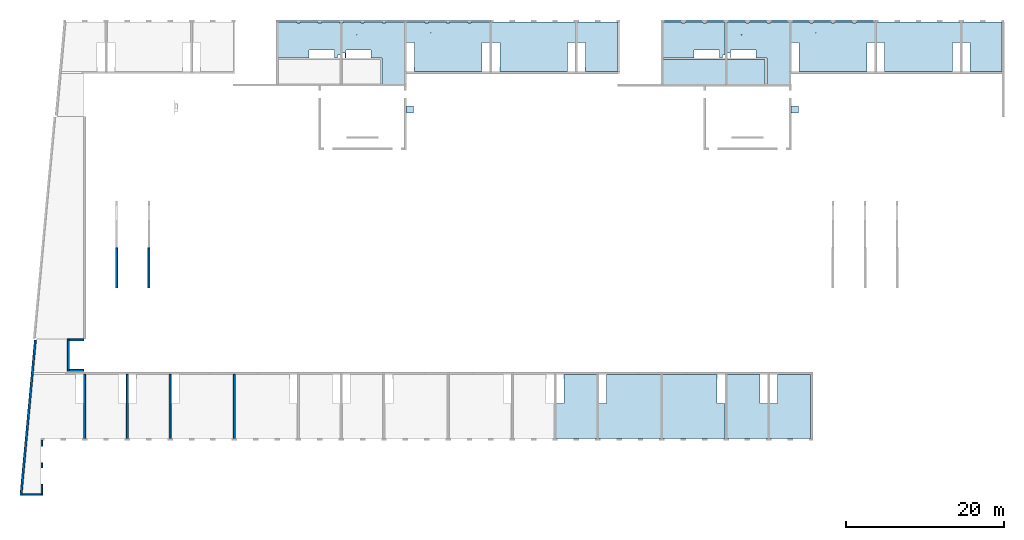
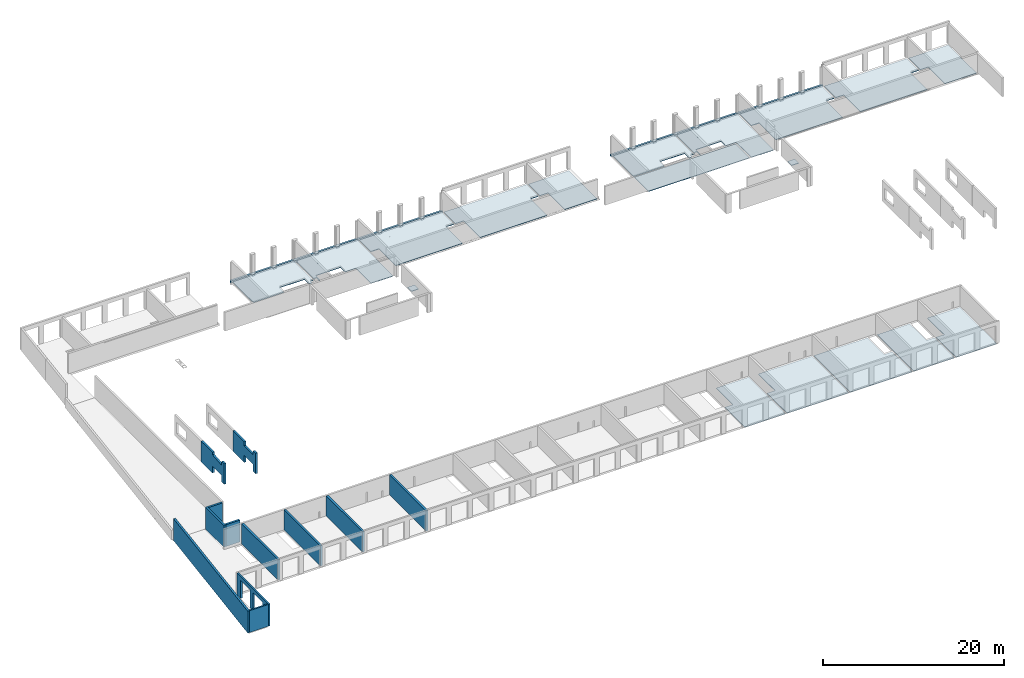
# One storey, part 3 of 12: 20 slabs, 12 walls, 17 openings.
"""IFC2X3 building model written with IfcOpenShell, lengths in millimetres."""

from ifc_helpers import new_model, entity, si_unit, converted_unit, derived_unit, direction, frame, frame_2d, origin, origin_2d_with_axis, place, context, subcontext, project, spatial, polyline, rectangle, circle, outline, extrude, material, layer, layer_set, layer_usage, type_object, element, save


model = new_model("IFC2X3")

# Units and contexts
model_context = context("Model", 3, precision=0.01, world=origin(), true_north=direction((6.12303176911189e-17, 1.0)))
body_context = subcontext(model_context, "Body", "Model", "MODEL_VIEW")
ifc_project = project(units=[si_unit("LENGTHUNIT", "METRE", prefix="MILLI"), si_unit("AREAUNIT", "SQUARE_METRE"), si_unit("VOLUMEUNIT", "CUBIC_METRE"), converted_unit("PLANEANGLEUNIT", "DEGREE", entity("IfcRatioMeasure", 0.0174532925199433), si_unit("PLANEANGLEUNIT", "RADIAN"), dimensions=[0, 0, 0, 0, 0, 0, 0]), si_unit("MASSUNIT", "GRAM", prefix="KILO"), derived_unit("MASSDENSITYUNIT", [(si_unit("MASSUNIT", "GRAM", prefix="KILO"), 1), (si_unit("LENGTHUNIT", "METRE"), -3)]), si_unit("TIMEUNIT", "SECOND"), si_unit("FREQUENCYUNIT", "HERTZ"), si_unit("THERMODYNAMICTEMPERATUREUNIT", "DEGREE_CELSIUS"), derived_unit("THERMALTRANSMITTANCEUNIT", [(si_unit("MASSUNIT", "GRAM", prefix="KILO"), 1), (si_unit("THERMODYNAMICTEMPERATUREUNIT", "KELVIN"), -1), (si_unit("TIMEUNIT", "SECOND"), -3)]), derived_unit("VOLUMETRICFLOWRATEUNIT", [(si_unit("LENGTHUNIT", "METRE"), 3), (si_unit("TIMEUNIT", "SECOND"), -1)]), si_unit("ELECTRICCURRENTUNIT", "AMPERE"), si_unit("ELECTRICVOLTAGEUNIT", "VOLT"), si_unit("POWERUNIT", "WATT"), si_unit("FORCEUNIT", "NEWTON", prefix="KILO"), si_unit("ILLUMINANCEUNIT", "LUX"), si_unit("LUMINOUSFLUXUNIT", "LUMEN"), si_unit("LUMINOUSINTENSITYUNIT", "CANDELA"), derived_unit("USERDEFINED", [(si_unit("MASSUNIT", "GRAM", prefix="KILO"), -1), (si_unit("LENGTHUNIT", "METRE"), -2), (si_unit("TIMEUNIT", "SECOND"), 3), (si_unit("LUMINOUSFLUXUNIT", "LUMEN"), 1)]), derived_unit("LINEARVELOCITYUNIT", [(si_unit("LENGTHUNIT", "METRE"), 1), (si_unit("TIMEUNIT", "SECOND"), -1)]), si_unit("PRESSUREUNIT", "PASCAL"), derived_unit("USERDEFINED", [(si_unit("LENGTHUNIT", "METRE"), -2), (si_unit("MASSUNIT", "GRAM", prefix="KILO"), 1), (si_unit("TIMEUNIT", "SECOND"), -2)])], contexts=[model_context])

# Site, building, storey
site_placement = place(None, origin())
site = spatial("IfcSite", under=ifc_project, at=site_placement, Name="Default", CompositionType="ELEMENT")
building_placement = place(site_placement, origin())
building = spatial("IfcBuilding", under=site, at=building_placement, Name="niet gebruiken", CompositionType="ELEMENT")
storey_placement = place(building_placement, frame((0.0, 0.0, 6660.0)))
storey = spatial("IfcBuildingStorey", under=building, at=storey_placement, Name="02 tweede verdieping", CompositionType="ELEMENT", Elevation=6660.00000000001)

# Slabs
ifc_material_1 = material(Name="NLRS_f2_beton ihwg")
ifc_layer_1 = layer(ifc_material_1, 250.0)
ifc_layer_set_1 = layer_set([ifc_layer_1], Name="Floor:NLRS_23.21_FL_breedplaat d=70/250_schil apart_gen")
ifc_layer_usage_1 = layer_usage(ifc_layer_set_1, "AXIS3", "POSITIVE", 0.0)
slab_1_placement = place(storey_placement, origin())
element("IfcSlab", 1, at=slab_1_placement, inside=storey, material=ifc_layer_usage_1, Name="Floor:NLRS_23.21_FL_breedplaat d=70/250_schil apart_gen", ObjectType="Floor:NLRS_23.21_FL_breedplaat d=70/250_schil apart_gen", PredefinedType="FLOOR", context=body_context, shape_type="SweptSolid", body=[
    extrude(outline(polyline([(57.2222222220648, -13293.3333333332), (307.222222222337, -13293.3333333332), (307.222222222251, 13786.6666666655), (57.2222222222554, 13786.6666666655), (57.2222222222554, 11311.6666666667), (-102.777777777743, 11311.6666666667), (-102.777777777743, 10901.6666666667), (57.2222222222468, 10901.6666666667), (57.2222222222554, 8611.66666666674), (-102.777777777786, 8611.66666666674), (-102.777777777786, 8201.66666666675), (57.2222222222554, 8201.66666666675), (57.2222222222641, 5911.66666666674), (-102.777777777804, 5911.66666666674), (-102.777777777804, 5501.66666666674), (57.2222222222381, 5501.66666666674), (57.2222222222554, 511.666666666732), (-102.777777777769, 511.666666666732), (-102.777777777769, 101.666666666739), (57.2222222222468, 101.666666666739), (57.2222222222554, -2188.33333333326), (-102.777777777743, -2188.33333333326), (-102.777777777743, -2598.33333333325), (57.2222222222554, -2598.33333333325), (57.2222222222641, -4888.33333333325), (-102.77777777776, -4888.33333333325), (-102.77777777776, -5298.33333333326), (57.2222222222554, -5298.33333333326), (57.2222222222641, -7588.33333333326), (-102.777777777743, -7588.33333333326), (-102.777777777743, -7998.33333333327), (57.2222222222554, -7998.33333333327), (57.2222222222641, -10288.3333333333), (-102.777777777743, -10288.3333333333), (-102.777777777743, -10698.3333333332), (57.2222222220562, -10698.3333333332), (57.2222222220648, -13293.3333333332)])), frame((45593.3333333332, 52948.7777777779, -90.0), z_axis=(0.0, 0.0, -1.0), x_axis=(0.0, 1.0, 0.0)), (0.0, 0.0, 1.0), 250.000000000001),
])
ifc_layer_usage_2 = layer_usage(ifc_layer_set_1, "AXIS3", "POSITIVE", 0.0)
slab_2_placement = place(storey_placement, frame((80900.0, 52846.0, -340.0)))
element("IfcSlab", 2, at=slab_2_placement, inside=storey, material=ifc_layer_usage_2, Name="Floor:NLRS_23.21_FL_breedplaat d=70/250_schil apart_gen", ObjectType="Floor:NLRS_23.21_FL_breedplaat d=70/250_schil apart_gen", PredefinedType="FLOOR", context=body_context, shape_type="SweptSolid", body=[
    extrude(outline(polyline([(13540.0, 205.0), (-13540.0, 205.0), (-13540.0, -45.0), (-11065.0, -45.0), (-11065.0, -205.0), (-10655.0, -205.0), (-10655.0, -45.0), (-8365.0, -45.0), (-8365.0, -205.0), (-7955.0, -205.0), (-7955.0, -45.0), (-5665.0, -45.0), (-5665.0, -205.0), (-5255.0, -205.0), (-5255.0, -45.0), (-265.0, -45.0), (-265.0, -205.0), (145.0, -205.0), (145.0, -45.0), (2435.0, -45.0), (2435.0, -205.0), (2845.0, -205.0), (2845.0, -45.0), (5135.0, -45.0), (5135.0, -205.0), (5545.0, -205.0), (5545.0, -45.0), (7835.0, -45.0), (7835.0, -205.0), (8245.0, -205.0), (8245.0, -45.0), (10535.0, -45.0), (10535.0, -205.0), (10945.0, -205.0), (10945.0, -45.0), (13540.0, -45.0), (13540.0, 205.0)])), frame((13540.0, 205.0, 250.0), z_axis=(0.0, 0.0, -1.0), x_axis=(-1.0, 0.0, 0.0)), (0.0, 0.0, 1.0), 250.000000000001),
])
ifc_material_2 = material(Name="NLRS_f2_beton prefab")
ifc_layer_2 = layer(ifc_material_2, 70.0)
ifc_layer_set_2 = layer_set([ifc_layer_2], Name="Floor:NLRS_23.21_FL_breedplaatschil d=70_gen")
ifc_layer_usage_3 = layer_usage(ifc_layer_set_2, "AXIS3", "POSITIVE", 0.0)
slab_3_placement = place(storey_placement, origin())
element("IfcSlab", 3, at=slab_3_placement, inside=storey, material=ifc_layer_usage_3, Name="Floor:NLRS_23.21_FL_breedplaatschil d=70_gen", ObjectType="Floor:NLRS_23.21_FL_breedplaatschil d=70_gen", PredefinedType="FLOOR", context=body_context, shape_type="SweptSolid", body=[
    extrude(outline(polyline([(-4164.0, -2070.0), (232.0, -2070.0), (232.0, -1050.0), (3932.0, -1050.0), (3932.0, 3120.0), (-4164.0, 3120.0), (-4164.0, -2070.0)])), frame((96675.0, 4584.0, -270.0), z_axis=(0.0, 0.0, -1.0), x_axis=(0.0, 1.0, 0.0)), (0.0, 0.0, 1.0), 70.0000000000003),
])
ifc_layer_usage_4 = layer_usage(ifc_layer_set_2, "AXIS3", "POSITIVE", 0.0)
slab_4_placement = place(storey_placement, origin())
element("IfcSlab", 4, at=slab_4_placement, inside=storey, material=ifc_layer_usage_4, Name="Floor:NLRS_23.21_FL_breedplaatschil d=70_gen", ObjectType="Floor:NLRS_23.21_FL_breedplaatschil d=70_gen", PredefinedType="FLOOR", context=body_context, shape_type="SweptSolid", body=[
    extrude(outline(polyline([(-4164.0, -2070.0), (232.0, -2070.0), (232.0, -1050.0), (3932.0, -1050.0), (3932.0, 3120.0), (-4164.0, 3120.0), (-4164.0, -2070.0)])), frame((69675.0, 4584.0, -270.0), z_axis=(0.0, 0.0, -1.0), x_axis=(0.0, 1.0, 0.0)), (0.0, 0.0, 1.0), 70.0000000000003),
])
ifc_layer_usage_5 = layer_usage(ifc_layer_set_2, "AXIS3", "POSITIVE", 0.0)
slab_5_placement = place(storey_placement, origin())
element("IfcSlab", 5, at=slab_5_placement, inside=storey, material=ifc_layer_usage_5, Name="Floor:NLRS_23.21_FL_breedplaatschil d=70_gen", ObjectType="Floor:NLRS_23.21_FL_breedplaatschil d=70_gen", PredefinedType="FLOOR", context=body_context, shape_type="SweptSolid", body=[
    extrude(outline(polyline([(-4164.0, -3120.0), (3932.0, -3120.0), (3932.0, 1050.0), (232.0, 1050.0), (232.0, 2070.0), (-4164.0, 2070.0), (-4164.0, -3120.0)])), frame((92325.0, 4584.0, -270.0), z_axis=(0.0, 0.0, -1.0), x_axis=(0.0, 1.0, 0.0)), (0.0, 0.0, 1.0), 70.0000000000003),
])
ifc_layer_usage_6 = layer_usage(ifc_layer_set_2, "AXIS3", "POSITIVE", 0.0)
slab_6_placement = place(storey_placement, origin())
element("IfcSlab", 6, at=slab_6_placement, inside=storey, material=ifc_layer_usage_6, Name="Floor:NLRS_23.21_FL_breedplaatschil d=70_gen", ObjectType="Floor:NLRS_23.21_FL_breedplaatschil d=70_gen", PredefinedType="FLOOR", context=body_context, shape_type="SweptSolid", body=[
    extrude(outline(polyline([(-4164.0, -2970.0), (232.0, -2970.0), (232.0, -1950.0), (3932.0, -1950.0), (3932.0, 4920.0), (-4164.0, 4920.0), (-4164.0, -2970.0)])), frame((75975.0, 4584.0, -270.0), z_axis=(0.0, 0.0, -1.0), x_axis=(0.0, 1.0, 0.0)), (0.0, 0.0, 1.0), 70.0000000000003),
])
ifc_layer_usage_7 = layer_usage(ifc_layer_set_2, "AXIS3", "POSITIVE", 0.0)
slab_7_placement = place(storey_placement, origin())
element("IfcSlab", 7, at=slab_7_placement, inside=storey, material=ifc_layer_usage_7, Name="Floor:NLRS_23.21_FL_breedplaatschil d=70_gen", ObjectType="Floor:NLRS_23.21_FL_breedplaatschil d=70_gen", PredefinedType="FLOOR", context=body_context, shape_type="SweptSolid", body=[
    extrude(outline(polyline([(-4164.0, -4920.0), (3932.0, -4920.0), (3932.0, 1950.0), (232.0, 1950.0), (232.0, 2970.0), (-4164.0, 2970.0), (-4164.0, -4920.0)])), frame((86025.0, 4584.0, -270.0), z_axis=(0.0, 0.0, -1.0), x_axis=(0.0, 1.0, 0.0)), (0.0, 0.0, 1.0), 70.0000000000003),
])
ifc_layer_usage_8 = layer_usage(ifc_layer_set_2, "AXIS3", "POSITIVE", 0.0)
slab_8_placement = place(storey_placement, origin())
element("IfcSlab", 8, at=slab_8_placement, inside=storey, material=ifc_layer_usage_8, Name="Floor:NLRS_23.21_FL_breedplaatschil d=70_gen", ObjectType="Floor:NLRS_23.21_FL_breedplaatschil d=70_gen", PredefinedType="FLOOR", context=body_context, shape_type="SweptSolid", body=[
    extrude(outline(polyline([(285.0, -5295.0), (2845.0, -5295.0), (2845.0, 5295.0), (285.0, 5295.0), (285.0, 4275.0), (-3415.0, 4275.0), (-3415.0, -4275.0), (285.0, -4275.0), (285.0, -5295.0)])), frame((64800.0, 50141.0, -270.0), z_axis=(0.0, 0.0, -1.0), x_axis=(0.0, 1.0, 0.0)), (0.0, 0.0, 1.0), 70.0000000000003),
])
ifc_layer_usage_9 = layer_usage(ifc_layer_set_2, "AXIS3", "POSITIVE", 0.0)
slab_9_placement = place(storey_placement, origin())
element("IfcSlab", 9, at=slab_9_placement, inside=storey, material=ifc_layer_usage_9, Name="Floor:NLRS_23.21_FL_breedplaatschil d=70_gen", ObjectType="Floor:NLRS_23.21_FL_breedplaatschil d=70_gen", PredefinedType="FLOOR", context=body_context, shape_type="SweptSolid", body=[
    extrude(outline(polyline([(380.0, -2061.66666666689), (2940.0, -2061.66666666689), (2940.0, 3103.33333333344), (-3320.0, 3103.33333333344), (-3320.0, -1041.66666666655), (380.0, -1041.66666666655), (380.0, -2061.66666666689)])), frame((72366.6666666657, 50046.0, -270.0), z_axis=(0.0, 0.0, -1.0), x_axis=(0.0, 1.0, 0.0)), (0.0, 0.0, 1.0), 70.0000000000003),
])

# Slab, opening
ifc_layer_usage_10 = layer_usage(ifc_layer_set_2, "AXIS3", "POSITIVE", 0.0)
slab_10_placement = place(storey_placement, frame((48705.0, 46726.0, -340.0)))
slab_10 = element("IfcSlab", 10, at=slab_10_placement, inside=storey, material=ifc_layer_usage_10, Name="Floor:NLRS_23.21_FL_breedplaatschil d=70_gen", ObjectType="Floor:NLRS_23.21_FL_breedplaatschil d=70_gen", PredefinedType="FLOOR", context=body_context, shape_type="SweptSolid", body=[
    extrude(outline(polyline([(2885.0, 3150.0), (2885.0, 2990.0), (2515.0, 2990.0), (2515.0, 3150.0), (185.0, 3150.0), (185.0, 2990.0), (-185.0, 2990.0), (-185.0, 3150.0), (-2515.0, 3150.0), (-2515.0, 2990.0), (-2885.0, 2990.0), (-2885.0, 3150.0), (-5295.0, 3150.0), (-5295.0, 550.0), (-4275.0, 550.0), (-4275.0, -3150.0), (4275.0, -3150.0), (4275.0, 550.0), (5295.0, 550.0), (5295.0, 3150.0), (2885.0, 3150.0)])), frame((5295.0, 3150.0, 70.0), z_axis=(0.0, 0.0, -1.0), x_axis=(-1.0, 0.0, 0.0)), (0.0, 0.0, 1.0), 70.0000000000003),
])
opening_1_placement = place(storey_placement, frame((48705.0, 46726.0, -340.0)))
element("IfcOpeningElement", 11, at=opening_1_placement, cuts=slab_10, ObjectType="Opening", context=body_context, shape_type="SweptSolid", body=[
    extrude(circle(Radius=37.5, at=frame_2d((2200.0, 1780.0), x_axis=(1.0, 0.0))), frame((5295.0, 3150.0, 70.0), z_axis=(0.0, 0.0, -1.0), x_axis=(-1.0, 0.0, 0.0)), (0.0, 0.0, 1.0), 70.0000000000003),
])

# Slab
ifc_layer_usage_11 = layer_usage(ifc_layer_set_2, "AXIS3", "POSITIVE", 0.0)
slab_11_placement = place(storey_placement, origin())
element("IfcSlab", 12, at=slab_11_placement, inside=storey, material=ifc_layer_usage_11, Name="Floor:NLRS_23.21_FL_breedplaatschil d=70_gen", ObjectType="Floor:NLRS_23.21_FL_breedplaatschil d=70_gen", PredefinedType="FLOOR", context=body_context, shape_type="SweptSolid", body=[
    extrude(outline(polyline([(-2833.0, -4987.4999999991), (1737.0, -4987.4999999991), (1737.0, -2602.50000000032), (1577.0, -2602.50000000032), (1577.0, -2232.50000000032), (1737.0, -2232.50000000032), (1737.0, 97.4999999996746), (1577.0, 97.4999999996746), (1577.0, 467.499999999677), (1737.0, 467.499999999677), (1737.0, 2797.49999999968), (1577.0, 2797.49999999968), (1577.0, 2877.49999999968), (-2463.0, 2877.49999999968), (-2463.0, 2507.50000000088), (-2833.0, 2507.50000000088), (-2833.0, 2137.49999999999), (-1813.0, 2137.49999999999), (-1813.0, -1062.50000000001), (-2833.0, -1062.50000000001), (-2833.0, -4987.4999999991)])), frame((86117.4999999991, 51289.0, -270.0), z_axis=(0.0, 0.0, -1.0), x_axis=(0.0, 1.0, 0.0)), (0.0, 0.0, 1.0), 70.0000000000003),
])

# Slab, openings
ifc_layer_usage_12 = layer_usage(ifc_layer_set_2, "AXIS3", "POSITIVE", 0.0)
slab_12_placement = place(storey_placement, frame((89205.0, 45156.0, -340.0)))
slab_12 = element("IfcSlab", 13, at=slab_12_placement, inside=storey, material=ifc_layer_usage_12, Name="Floor:NLRS_23.21_FL_breedplaatschil d=70_gen", ObjectType="Floor:NLRS_23.21_FL_breedplaatschil d=70_gen", PredefinedType="FLOOR", context=body_context, shape_type="SweptSolid", body=[
    extrude(outline(polyline([(-1535.0, 3935.0), (-3945.0, 3935.0), (-3945.0, -3955.0), (-1105.0, -3955.0), (-1105.0, -635.0), (275.0, -635.0), (275.0, 385.0), (3475.0, 385.0), (3475.0, -635.0), (3575.0, -635.0), (3575.0, -265.0), (3945.0, -265.0), (3945.0, 3775.0), (3865.0, 3775.0), (3865.0, 3935.0), (1535.0, 3935.0), (1535.0, 3775.0), (1165.0, 3775.0), (1165.0, 3935.0), (-1165.0, 3935.0), (-1165.0, 3775.0), (-1535.0, 3775.0), (-1535.0, 3935.0)])), frame((3945.0, 3935.0, 70.0), z_axis=(0.0, 0.0, -1.0), x_axis=(-1.0, 0.0, 0.0)), (0.0, 0.0, 1.0), 70.0000000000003),
])
opening_2_placement = place(storey_placement, frame((89205.0, 45156.0, -340.0)))
element("IfcOpeningElement", 14, at=opening_2_placement, cuts=slab_12, ObjectType="Opening", context=body_context, shape_type="SweptSolid", body=[
    extrude(circle(Radius=37.5, at=frame_2d((2100.0, 2315.0), x_axis=(1.0, 0.0))), frame((3945.0, 3935.0, 70.0), z_axis=(0.0, 0.0, -1.0), x_axis=(-1.0, 0.0, 0.0)), (0.0, 0.0, 1.0), 70.0000000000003),
])
opening_3_placement = place(slab_12_placement, origin())
element("IfcOpeningElement", 15, at=opening_3_placement, cuts=slab_12, ObjectType="Opening", context=body_context, shape_type="SweptSolid", body=[
    extrude(rectangle(XDim=607.000000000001, YDim=350.000000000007, at=origin_2d_with_axis()), frame((195.0, 3623.49999999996, 0.0), z_axis=(0.0, 0.0, 1.0), x_axis=(0.0, -1.0, 0.0)), (0.0, 0.0, 1.0), 249.999999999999),
])

# Slabs
ifc_layer_usage_13 = layer_usage(ifc_layer_set_2, "AXIS3", "POSITIVE", 0.0)
slab_13_placement = place(storey_placement, origin())
element("IfcSlab", 16, at=slab_13_placement, inside=storey, material=ifc_layer_usage_13, Name="Floor:NLRS_23.21_FL_breedplaatschil d=70_gen", ObjectType="Floor:NLRS_23.21_FL_breedplaatschil d=70_gen", PredefinedType="FLOOR", context=body_context, shape_type="SweptSolid", body=[
    extrude(outline(polyline([(285.0, -5295.0), (2845.0, -5295.0), (2845.0, 5295.0), (285.0, 5295.0), (285.0, 4275.0), (-3415.0, 4275.0), (-3415.0, -4275.0), (285.0, -4275.0), (285.0, -5295.0)])), frame((113400.0, 50141.0, -270.0), z_axis=(0.0, 0.0, -1.0), x_axis=(0.0, 1.0, 0.0)), (0.0, 0.0, 1.0), 70.0000000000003),
])
ifc_layer_usage_14 = layer_usage(ifc_layer_set_2, "AXIS3", "POSITIVE", 0.0)
slab_14_placement = place(storey_placement, origin())
element("IfcSlab", 17, at=slab_14_placement, inside=storey, material=ifc_layer_usage_14, Name="Floor:NLRS_23.21_FL_breedplaatschil d=70_gen", ObjectType="Floor:NLRS_23.21_FL_breedplaatschil d=70_gen", PredefinedType="FLOOR", context=body_context, shape_type="SweptSolid", body=[
    extrude(outline(polyline([(380.0, -2028.33333333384), (2940.0, -2028.33333333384), (2940.0, 3036.66666666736), (-3320.0, 3036.66666666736), (-3320.0, -1008.3333333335), (380.0, -1008.3333333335), (380.0, -2028.33333333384)])), frame((120933.333333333, 50046.0, -270.0), z_axis=(0.0, 0.0, -1.0), x_axis=(0.0, 1.0, 0.0)), (0.0, 0.0, 1.0), 70.0000000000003),
])

# Slab, opening
ifc_layer_usage_15 = layer_usage(ifc_layer_set_2, "AXIS3", "POSITIVE", 0.0)
slab_15_placement = place(storey_placement, frame((97305.0, 46726.0, -340.0)))
slab_15 = element("IfcSlab", 18, at=slab_15_placement, inside=storey, material=ifc_layer_usage_15, Name="Floor:NLRS_23.21_FL_breedplaatschil d=70_gen", ObjectType="Floor:NLRS_23.21_FL_breedplaatschil d=70_gen", PredefinedType="FLOOR", context=body_context, shape_type="SweptSolid", body=[
    extrude(outline(polyline([(2885.0, 3150.0), (2885.0, 2990.0), (2515.0, 2990.0), (2515.0, 3150.0), (185.0, 3150.0), (185.0, 2990.0), (-185.0, 2990.0), (-185.0, 3150.0), (-2515.0, 3150.0), (-2515.0, 2990.0), (-2885.0, 2990.0), (-2885.0, 3150.0), (-5295.0, 3150.0), (-5295.0, 550.0), (-4275.0, 550.0), (-4275.0, -3150.0), (4275.0, -3150.0), (4275.0, 550.0), (5295.0, 550.0), (5295.0, 3150.0), (2885.0, 3150.0)])), frame((5295.0, 3150.0, 70.0), z_axis=(0.0, 0.0, -1.0), x_axis=(-1.0, 0.0, 0.0)), (0.0, 0.0, 1.0), 70.0000000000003),
])
opening_4_placement = place(storey_placement, frame((97305.0, 46726.0, -340.0)))
element("IfcOpeningElement", 19, at=opening_4_placement, cuts=slab_15, ObjectType="Opening", context=body_context, shape_type="SweptSolid", body=[
    extrude(circle(Radius=37.5, at=frame_2d((2200.0, 1780.0), x_axis=(1.0, 0.0))), frame((5295.0, 3150.0, 70.0), z_axis=(0.0, 0.0, -1.0), x_axis=(-1.0, 0.0, 0.0)), (0.0, 0.0, 1.0), 70.0000000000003),
])

# Slabs
ifc_layer_usage_16 = layer_usage(ifc_layer_set_2, "AXIS3", "POSITIVE", 0.0)
slab_16_placement = place(storey_placement, origin())
element("IfcSlab", 20, at=slab_16_placement, inside=storey, material=ifc_layer_usage_16, Name="Floor:NLRS_23.21_FL_breedplaatschil d=70_gen", ObjectType="Floor:NLRS_23.21_FL_breedplaatschil d=70_gen", PredefinedType="FLOOR", context=body_context, shape_type="SweptSolid", body=[
    extrude(rectangle(XDim=3109.99999999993, YDim=12914.9999999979, at=frame_2d((0.0, -8.64019966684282e-12), x_axis=(1.0, 0.0))), frame((87587.5000000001, 46691.0, -270.0), z_axis=(0.0, 0.0, -1.0), x_axis=(0.0, 1.0, 0.0)), (0.0, 0.0, 1.0), 70.0000000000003),
])
ifc_layer_usage_17 = layer_usage(ifc_layer_set_2, "AXIS3", "POSITIVE", 0.0)
slab_17_placement = place(storey_placement, origin())
element("IfcSlab", 21, at=slab_17_placement, inside=storey, material=ifc_layer_usage_17, Name="Floor:NLRS_23.21_FL_breedplaatschil d=70_gen", ObjectType="Floor:NLRS_23.21_FL_breedplaatschil d=70_gen", PredefinedType="FLOOR", context=body_context, shape_type="SweptSolid", body=[
    extrude(outline(polyline([(-2833.0, -4987.49999999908), (1737.0, -4987.49999999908), (1737.0, -2602.5000000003), (1577.0, -2602.5000000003), (1577.0, -2232.50000000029), (1737.0, -2232.50000000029), (1737.0, 97.4999999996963), (1577.0, 97.4999999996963), (1577.0, 467.499999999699), (1737.0, 467.499999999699), (1737.0, 2797.49999999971), (1577.0, 2797.49999999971), (1577.0, 2877.49999999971), (-2463.0, 2877.49999999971), (-2463.0, 2507.5000000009), (-2833.0, 2507.5000000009), (-2833.0, 2137.50000000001), (-1813.0, 2137.50000000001), (-1813.0, -1062.49999999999), (-2833.0, -1062.49999999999), (-2833.0, -4987.49999999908)])), frame((37517.4999999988, 51289.0, -270.0), z_axis=(0.0, 0.0, -1.0), x_axis=(0.0, 1.0, 0.0)), (0.0, 0.0, 1.0), 70.0000000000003),
])

# Slab, openings
ifc_layer_usage_18 = layer_usage(ifc_layer_set_2, "AXIS3", "POSITIVE", 0.0)
slab_18_placement = place(storey_placement, frame((40605.0, 45136.0, -340.0)))
slab_18 = element("IfcSlab", 22, at=slab_18_placement, inside=storey, material=ifc_layer_usage_18, Name="Floor:NLRS_23.21_FL_breedplaatschil d=70_gen", ObjectType="Floor:NLRS_23.21_FL_breedplaatschil d=70_gen", PredefinedType="FLOOR", context=body_context, shape_type="SweptSolid", body=[
    extrude(outline(polyline([(-1535.0, 3945.0), (-3945.0, 3945.0), (-3945.0, -3945.0), (-1105.0, -3945.0), (-1105.0, -625.0), (275.0, -625.0), (275.0, 395.0), (3475.0, 395.0), (3475.0, -625.0), (3575.0, -625.0), (3575.0, -255.0), (3945.0, -255.0), (3945.0, 3785.0), (3865.0, 3785.0), (3865.0, 3945.0), (1535.0, 3945.0), (1535.0, 3785.0), (1165.0, 3785.0), (1165.0, 3945.0), (-1165.0, 3945.0), (-1165.0, 3785.0), (-1535.0, 3785.0), (-1535.0, 3945.0)])), frame((3945.0, 3945.0, 70.0), z_axis=(0.0, 0.0, -1.0), x_axis=(-1.0, 0.0, 0.0)), (0.0, 0.0, 1.0), 70.0000000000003),
])
opening_5_placement = place(storey_placement, frame((40605.0, 45136.0, -340.0)))
element("IfcOpeningElement", 23, at=opening_5_placement, cuts=slab_18, ObjectType="Opening", context=body_context, shape_type="SweptSolid", body=[
    extrude(circle(Radius=37.5, at=frame_2d((2100.0, 2325.0), x_axis=(1.0, 0.0))), frame((3945.0, 3945.0, 70.0), z_axis=(0.0, 0.0, -1.0), x_axis=(-1.0, 0.0, 0.0)), (0.0, 0.0, 1.0), 70.0000000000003),
])
opening_6_placement = place(slab_18_placement, origin())
element("IfcOpeningElement", 24, at=opening_6_placement, cuts=slab_18, ObjectType="Opening", context=body_context, shape_type="SweptSolid", body=[
    extrude(rectangle(XDim=607.000000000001, YDim=349.999999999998, at=origin_2d_with_axis()), frame((195.0, 3643.50000000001, 0.0), z_axis=(0.0, 0.0, 1.0), x_axis=(0.0, -1.0, 0.0)), (0.0, 0.0, 1.0), 249.999999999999),
])

# Slabs
ifc_layer_usage_19 = layer_usage(ifc_layer_set_2, "AXIS3", "POSITIVE", 0.0)
slab_19_placement = place(storey_placement, origin())
element("IfcSlab", 25, at=slab_19_placement, inside=storey, material=ifc_layer_usage_19, Name="Floor:NLRS_23.21_FL_breedplaatschil d=70_gen", ObjectType="Floor:NLRS_23.21_FL_breedplaatschil d=70_gen", PredefinedType="FLOOR", context=body_context, shape_type="SweptSolid", body=[
    extrude(rectangle(XDim=900.000000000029, YDim=900.000150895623, at=frame_2d((4.34852154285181e-12, 4.32009983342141e-12), x_axis=(1.0, 0.0))), frame((49175.0, 41936.0, -230.0), z_axis=(0.0, 0.0, -1.0), x_axis=(0.0, 1.0, 0.0)), (0.0, 0.0, 1.0), 70.0000000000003),
])
ifc_layer_usage_20 = layer_usage(ifc_layer_set_2, "AXIS3", "POSITIVE", 0.0)
slab_20_placement = place(storey_placement, origin())
element("IfcSlab", 26, at=slab_20_placement, inside=storey, material=ifc_layer_usage_20, Name="Floor:NLRS_23.21_FL_breedplaatschil d=70_gen", ObjectType="Floor:NLRS_23.21_FL_breedplaatschil d=70_gen", PredefinedType="FLOOR", context=body_context, shape_type="SweptSolid", body=[
    extrude(rectangle(XDim=900.000000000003, YDim=900.000150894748, at=origin_2d_with_axis()), frame((97775.0, 41936.0, -230.0), z_axis=(0.0, 0.0, -1.0), x_axis=(0.0, 1.0, 0.0)), (0.0, 0.0, 1.0), 70.0000000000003),
])

# Walls
ifc_layer_3 = layer(ifc_material_1, 250.0)
ifc_layer_set_3 = layer_set([ifc_layer_3], Name="Basic Wall:NLRS_22.21_WA_beton ihwg d=250_gen")
ifc_layer_usage_21 = layer_usage(ifc_layer_set_3, "AXIS2", "NEGATIVE", 125.0)
wall_type_1 = type_object("IfcWallType", Name="Basic Wall:NLRS_22.21_WA_beton ihwg d=250_gen", PredefinedType="STANDARD", material=ifc_layer_set_3)
wall_1_placement = place(storey_placement, frame((8100.0, 8496.0, -90.0), z_axis=(0.0, 0.0, 1.0), x_axis=(0.0, -1.0, 0.0)))
element("IfcWallStandardCase", 27, at=wall_1_placement, inside=storey, type_object=wall_type_1, material=ifc_layer_usage_21, Name="Basic Wall:NLRS_22.21_WA_beton ihwg d=250_gen", ObjectType="Basic Wall:NLRS_22.21_WA_beton ihwg d=250_gen", context=body_context, shape_type="SweptSolid", body=[
    extrude(rectangle(XDim=8075.99999999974, YDim=249.999999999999, at=frame_2d((4037.99999999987, 0.0), x_axis=(-1.0, 0.0))), origin(), (0.0, 0.0, 1.0), 2720.00000000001),
])
ifc_layer_usage_22 = layer_usage(ifc_layer_set_3, "AXIS2", "NEGATIVE", 125.0)
wall_2_placement = place(storey_placement, frame((13500.0, 8496.0, -90.0), z_axis=(0.0, 0.0, 1.0), x_axis=(0.0, -1.0, 0.0)))
element("IfcWallStandardCase", 28, at=wall_2_placement, inside=storey, type_object=wall_type_1, material=ifc_layer_usage_22, Name="Basic Wall:NLRS_22.21_WA_beton ihwg d=250_gen", ObjectType="Basic Wall:NLRS_22.21_WA_beton ihwg d=250_gen", context=body_context, shape_type="SweptSolid", body=[
    extrude(rectangle(XDim=8075.99999999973, YDim=249.999999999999, at=frame_2d((4037.99999999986, 0.0), x_axis=(-1.0, 0.0))), origin(), (0.0, 0.0, 1.0), 2720.00000000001),
])
ifc_layer_usage_23 = layer_usage(ifc_layer_set_3, "AXIS2", "NEGATIVE", 125.0)
wall_3_placement = place(storey_placement, frame((18900.0, 8496.0, -90.0), z_axis=(0.0, 0.0, 1.0), x_axis=(0.0, -1.0, 0.0)))
element("IfcWallStandardCase", 29, at=wall_3_placement, inside=storey, type_object=wall_type_1, material=ifc_layer_usage_23, Name="Basic Wall:NLRS_22.21_WA_beton ihwg d=250_gen", ObjectType="Basic Wall:NLRS_22.21_WA_beton ihwg d=250_gen", context=body_context, shape_type="SweptSolid", body=[
    extrude(rectangle(XDim=8075.99999999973, YDim=249.999999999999, at=frame_2d((4037.99999999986, 0.0), x_axis=(-1.0, 0.0))), origin(), (0.0, 0.0, 1.0), 2720.00000000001),
])

# Wall, openings
ifc_layer_usage_24 = layer_usage(ifc_layer_set_3, "AXIS2", "NEGATIVE", 125.0)
wall_4_placement = place(storey_placement, frame((27000.0, 8496.0, -90.0), z_axis=(0.0, 0.0, 1.0), x_axis=(0.0, -1.0, 0.0)))
wall_4 = element("IfcWallStandardCase", 30, at=wall_4_placement, inside=storey, type_object=wall_type_1, material=ifc_layer_usage_24, Name="Basic Wall:NLRS_22.21_WA_beton ihwg d=250_gen", ObjectType="Basic Wall:NLRS_22.21_WA_beton ihwg d=250_gen", context=body_context, shape_type="SweptSolid", body=[
    extrude(rectangle(XDim=8075.99999999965, YDim=250.000000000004, at=frame_2d((4037.99999999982, 0.0), x_axis=(-1.0, 0.0))), origin(), (0.0, 0.0, 1.0), 2720.00000000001),
])
opening_7_placement = place(wall_4_placement, origin())
element("IfcOpeningElement", 31, at=opening_7_placement, cuts=wall_4, Name="Basic Wall:NLRS_22.21_WA_beton ihwg d=250_gen", ObjectType="Recess", context=body_context, shape_type="SweptSolid", body=[
    extrude(rectangle(XDim=890.0, YDim=120.000000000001, at=frame_2d((-5.40012479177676e-13, 1.08357767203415e-12), x_axis=(1.0, 0.0))), frame((1830.0, 44.0, 445.0), z_axis=(0.0, 1.0, 0.0), x_axis=(0.0, 0.0, -1.0)), (0.0, 0.0, 1.0), 79.9999999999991),
])
opening_8_placement = place(wall_4_placement, origin())
element("IfcOpeningElement", 32, at=opening_8_placement, cuts=wall_4, Name="Basic Wall:NLRS_22.21_WA_beton ihwg d=250_gen", ObjectType="Recess", context=body_context, shape_type="SweptSolid", body=[
    extrude(rectangle(XDim=890.0, YDim=120.000000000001, at=frame_2d((-5.40012479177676e-13, 0.0), x_axis=(1.0, 0.0))), frame((1270.0, 42.0, 445.0), z_axis=(0.0, 1.0, 0.0), x_axis=(0.0, 0.0, -1.0)), (0.0, 0.0, 1.0), 79.9999999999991),
])
opening_9_placement = place(wall_4_placement, origin())
element("IfcOpeningElement", 33, at=opening_9_placement, cuts=wall_4, Name="Basic Wall:NLRS_22.21_WA_beton ihwg d=250_gen", ObjectType="Recess", context=body_context, shape_type="SweptSolid", body=[
    extrude(rectangle(XDim=890.0, YDim=120.0, at=frame_2d((-5.40012479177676e-13, 0.0), x_axis=(1.0, 0.0))), frame((1470.0, -122.0, 445.0), z_axis=(0.0, 1.0, 0.0), x_axis=(0.0, 0.0, -1.0)), (0.0, 0.0, 1.0), 79.9999999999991),
])
opening_10_placement = place(wall_4_placement, origin())
element("IfcOpeningElement", 34, at=opening_10_placement, cuts=wall_4, Name="Basic Wall:NLRS_22.21_WA_beton ihwg d=250_gen", ObjectType="Recess", context=body_context, shape_type="SweptSolid", body=[
    extrude(rectangle(XDim=890.0, YDim=120.000000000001, at=frame_2d((-5.40012479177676e-13, 0.0), x_axis=(1.0, 0.0))), frame((2030.0, -124.0, 445.0), z_axis=(0.0, 1.0, 0.0), x_axis=(0.0, 0.0, -1.0)), (0.0, 0.0, 1.0), 79.9999999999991),
])

# Walls
ifc_layer_4 = layer(ifc_material_2, 250.0)
ifc_layer_set_4 = layer_set([ifc_layer_4], Name="Basic Wall:NLRS_21.21_WA_beton prefab d=250_gen")
ifc_layer_usage_25 = layer_usage(ifc_layer_set_4, "AXIS2", "NEGATIVE", 125.0)
wall_type_2 = type_object("IfcWallType", Name="Basic Wall:NLRS_21.21_WA_beton prefab d=250_gen", PredefinedType="STANDARD", material=ifc_layer_set_4)
wall_5_placement = place(storey_placement, frame((6175.0, 12861.0, -70.0)))
element("IfcWallStandardCase", 35, at=wall_5_placement, inside=storey, type_object=wall_type_2, material=ifc_layer_usage_25, Name="Basic Wall:NLRS_21.21_WA_beton prefab d=250_gen", ObjectType="Basic Wall:NLRS_21.21_WA_beton prefab d=250_gen", context=body_context, shape_type="SweptSolid", body=[
    extrude(rectangle(XDim=1800.0, YDim=249.999999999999, at=frame_2d((900.0, 0.0), x_axis=(-1.0, 0.0))), origin(), (0.0, 0.0, 1.0), 2950.0),
])
ifc_layer_usage_26 = layer_usage(ifc_layer_set_4, "AXIS2", "NEGATIVE", 125.0)
wall_6_placement = place(storey_placement, frame((7975.0, 9011.0, -70.0), z_axis=(0.0, 0.0, 1.0), x_axis=(-1.0, 0.0, 0.0)))
element("IfcWallStandardCase", 36, at=wall_6_placement, inside=storey, type_object=wall_type_2, material=ifc_layer_usage_26, Name="Basic Wall:NLRS_21.21_WA_beton prefab d=250_gen", ObjectType="Basic Wall:NLRS_21.21_WA_beton prefab d=250_gen", context=body_context, shape_type="SweptSolid", body=[
    extrude(rectangle(XDim=1800.0, YDim=249.999999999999, at=frame_2d((900.0, 0.0), x_axis=(-1.0, 0.0))), origin(), (0.0, 0.0, 1.0), 2950.0),
])
ifc_layer_usage_27 = layer_usage(ifc_layer_set_4, "AXIS2", "NEGATIVE", 125.0)
wall_7_placement = place(storey_placement, frame((1875.75026155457, 12794.4626619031, -70.0), z_axis=(0.0, 0.0, 1.0), x_axis=(-0.0922987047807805, -0.995731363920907, 0.0)))
element("IfcWallStandardCase", 37, at=wall_7_placement, inside=storey, type_object=wall_type_2, material=ifc_layer_usage_27, Name="Basic Wall:NLRS_21.21_WA_beton prefab d=250_gen", ObjectType="Basic Wall:NLRS_21.21_WA_beton prefab d=250_gen", context=body_context, shape_type="SweptSolid", body=[
    extrude(outline(polyline([(19669.963917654, -125.0), (19646.7903218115, 125.0), (19445.9329347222, 125.0), (0.0, 125.0), (0.0, -125.0), (19669.963917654, -125.0)])), origin(), (0.0, 0.0, 1.0), 2950.0),
])

# Wall, openings
ifc_layer_5 = layer(ifc_material_2, 200.0)
ifc_layer_set_5 = layer_set([ifc_layer_5], Name="Basic Wall:NLRS_21.21_WA_beton prefab d=200_gen")
ifc_layer_usage_28 = layer_usage(ifc_layer_set_5, "AXIS2", "NEGATIVE", 100.0)
wall_type_3 = type_object("IfcWallType", Name="Basic Wall:NLRS_21.21_WA_beton prefab d=200_gen", PredefinedType="STANDARD", material=ifc_layer_set_5)
wall_8_placement = place(storey_placement, frame((2700.0, 200.0, -70.0), z_axis=(0.0, 0.0, 1.0), x_axis=(0.0, -1.0, 0.0)))
wall_8 = element("IfcWallStandardCase", 38, at=wall_8_placement, inside=storey, type_object=wall_type_3, material=ifc_layer_usage_28, Name="Basic Wall:NLRS_21.21_WA_beton prefab d=200_gen", ObjectType="Basic Wall:NLRS_21.21_WA_beton prefab d=200_gen", context=body_context, shape_type="SweptSolid", body=[
    extrude(rectangle(XDim=6980.0, YDim=200.0, at=frame_2d((3490.0, -7.105427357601e-15), x_axis=(-1.0, 0.0))), origin(), (0.0, 0.0, 1.0), 2949.9999999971),
])
opening_11_placement = place(wall_8_placement, origin())
element("IfcOpeningElement", 39, at=opening_11_placement, cuts=wall_8, Name="Basic Wall:NLRS_21.21_WA_beton prefab d=200_gen", ObjectType="Opening", context=body_context, shape_type="SweptSolid", body=[
    extrude(rectangle(XDim=2420.0, YDim=2080.0, at=frame_2d((1.02318153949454e-12, 0.0), x_axis=(1.0, 0.0))), frame((1840.0, -1624.0, 1210.0), z_axis=(0.0, 1.0, 0.0), x_axis=(0.0, 0.0, 1.0)), (0.0, 0.0, 1.0), 3048.0),
])
opening_12_placement = place(wall_8_placement, origin())
element("IfcOpeningElement", 40, at=opening_12_placement, cuts=wall_8, Name="Basic Wall:NLRS_21.21_WA_beton prefab d=200_gen", ObjectType="Opening", context=body_context, shape_type="SweptSolid", body=[
    extrude(rectangle(XDim=2420.0, YDim=2080.0, at=frame_2d((1.02318153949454e-12, -3.41060513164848e-13), x_axis=(1.0, 0.0))), frame((4540.0, -1624.0, 1210.0), z_axis=(0.0, 1.0, 0.0), x_axis=(0.0, 0.0, 1.0)), (0.0, 0.0, 1.0), 3048.0),
])

# Walls
ifc_layer_usage_29 = layer_usage(ifc_layer_set_5, "AXIS2", "NEGATIVE", 100.0)
wall_9_placement = place(storey_placement, frame((186.843382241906, -6680.0, -70.0)))
element("IfcWallStandardCase", 41, at=wall_9_placement, inside=storey, type_object=wall_type_3, material=ifc_layer_usage_29, Name="Basic Wall:NLRS_21.21_WA_beton prefab d=200_gen", ObjectType="Basic Wall:NLRS_21.21_WA_beton prefab d=200_gen", context=body_context, shape_type="SweptSolid", body=[
    extrude(outline(polyline([(2413.15661775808, -100.0), (2413.15661775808, 100.0), (18.5388766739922, 100.0), (0.0, -100.0), (2413.15661775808, -100.0)])), origin(), (0.0, 0.0, 1.0), 2949.99999999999),
])
ifc_layer_6 = layer(ifc_material_2, 250.0)
ifc_layer_set_6 = layer_set([ifc_layer_6], Name="Basic Wall:NLRS_22.21_WA_beton prefab d=250_gen")
ifc_layer_usage_30 = layer_usage(ifc_layer_set_6, "AXIS2", "NEGATIVE", 125.0)
wall_type_4 = type_object("IfcWallType", Name="Basic Wall:NLRS_22.21_WA_beton prefab d=250_gen", PredefinedType="STANDARD", material=ifc_layer_set_6)
wall_10_placement = place(storey_placement, frame((6050.0, 8886.0, -70.0), z_axis=(0.0, 0.0, 1.0), x_axis=(0.0, 1.0, 0.0)))
element("IfcWallStandardCase", 42, at=wall_10_placement, inside=storey, type_object=wall_type_4, material=ifc_layer_usage_30, Name="Basic Wall:NLRS_22.21_WA_beton prefab d=250_gen", ObjectType="Basic Wall:NLRS_22.21_WA_beton prefab d=250_gen", context=body_context, shape_type="SweptSolid", body=[
    extrude(rectangle(XDim=4100.0, YDim=249.999999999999, at=frame_2d((2050.0, 0.0), x_axis=(-1.0, 0.0))), origin(), (0.0, 0.0, 1.0), 2950.00000000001),
])

# Wall, openings
ifc_layer_usage_31 = layer_usage(ifc_layer_set_6, "AXIS2", "NEGATIVE", 125.0)
wall_11_placement = place(storey_placement, frame((12150.0, 24471.0, -100.0), z_axis=(0.0, 0.0, 1.0), x_axis=(0.0, -1.0, 0.0)))
wall_11 = element("IfcWallStandardCase", 43, at=wall_11_placement, inside=storey, type_object=wall_type_4, material=ifc_layer_usage_31, Name="Basic Wall:NLRS_22.21_WA_beton prefab d=250_gen", ObjectType="Basic Wall:NLRS_22.21_WA_beton prefab d=250_gen", context=body_context, shape_type="SweptSolid", body=[
    extrude(rectangle(XDim=5044.99999999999, YDim=249.999999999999, at=frame_2d((2522.49999999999, 0.0), x_axis=(-1.0, 0.0))), origin(), (0.0, 0.0, 1.0), 2780.0),
])
opening_13_placement = place(wall_11_placement, origin())
element("IfcOpeningElement", 44, at=opening_13_placement, cuts=wall_11, Name="Basic Wall:NLRS_22.21_WA_beton prefab d=250_gen", ObjectType="Opening", context=body_context, shape_type="SweptSolid", body=[
    extrude(outline(polyline([(-1000.0, -210.808960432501), (1000.0, -210.808960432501), (1000.0, 116.263505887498), (-1000.0, 305.3544149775), (-1000.0, -210.808960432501)])), frame((3495.0, 125.0, 2569.1910395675), z_axis=(0.0, -1.0, 0.0), x_axis=(-1.0, 0.0, 0.0)), (0.0, 0.0, 1.0), 250.0),
])
opening_14_placement = place(wall_11_placement, origin())
element("IfcOpeningElement", 45, at=opening_14_placement, cuts=wall_11, Name="Basic Wall:NLRS_22.21_WA_beton prefab d=250_gen", ObjectType="Opening", context=body_context, shape_type="SweptSolid", body=[
    extrude(rectangle(XDim=940.0, YDim=2000.0, at=frame_2d((-2.1600499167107e-12, -5.40012479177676e-13), x_axis=(0.0, 1.0))), frame((3495.0, 125.0, 470.0), z_axis=(0.0, -1.0, 0.0), x_axis=(1.0, 0.0, 0.0)), (0.0, 0.0, 1.0), 250.0),
])

ifc_layer_usage_32 = layer_usage(ifc_layer_set_6, "AXIS2", "NEGATIVE", 125.0)
wall_12_placement = place(storey_placement, frame((16200.0, 24471.0, -100.0), z_axis=(0.0, 0.0, 1.0), x_axis=(0.0, -1.0, 0.0)))
wall_12 = element("IfcWallStandardCase", 46, at=wall_12_placement, inside=storey, type_object=wall_type_4, material=ifc_layer_usage_32, Name="Basic Wall:NLRS_22.21_WA_beton prefab d=250_gen", ObjectType="Basic Wall:NLRS_22.21_WA_beton prefab d=250_gen", context=body_context, shape_type="SweptSolid", body=[
    extrude(rectangle(XDim=5045.0, YDim=249.999999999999, at=frame_2d((2522.5, 0.0), x_axis=(-1.0, 0.0))), origin(), (0.0, 0.0, 1.0), 2780.0),
])
opening_15_placement = place(wall_12_placement, origin())
element("IfcOpeningElement", 47, at=opening_15_placement, cuts=wall_12, Name="Basic Wall:NLRS_22.21_WA_beton prefab d=250_gen", ObjectType="Opening", context=body_context, shape_type="SweptSolid", body=[
    extrude(rectangle(XDim=940.000000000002, YDim=2000.0, at=frame_2d((-5.40012479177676e-13, 2.1600499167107e-12), x_axis=(1.0, 0.0))), frame((3495.0, -1649.0, 2710.0), z_axis=(0.0, 1.0, 0.0), x_axis=(0.0, 0.0, 1.0)), (0.0, 0.0, 1.0), 3048.0),
])
opening_16_placement = place(wall_12_placement, origin())
element("IfcOpeningElement", 48, at=opening_16_placement, cuts=wall_12, Name="Basic Wall:NLRS_22.21_WA_beton prefab d=250_gen", ObjectType="Opening", context=body_context, shape_type="SweptSolid", body=[
    extrude(rectangle(XDim=540.000000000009, YDim=2000.0, at=frame_2d((2.1600499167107e-12, 1.08002495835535e-12), x_axis=(0.0, 1.0))), frame((3495.0, 125.0, 2510.0), z_axis=(0.0, -1.0, 0.0), x_axis=(-1.0, 0.0, 0.0)), (0.0, 0.0, 1.0), 250.0),
])
opening_17_placement = place(wall_12_placement, origin())
element("IfcOpeningElement", 49, at=opening_17_placement, cuts=wall_12, Name="Basic Wall:NLRS_22.21_WA_beton prefab d=250_gen", ObjectType="Opening", context=body_context, shape_type="SweptSolid", body=[
    extrude(rectangle(XDim=940.000000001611, YDim=2000.0, at=frame_2d((-2.1600499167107e-12, 5.40012479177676e-13), x_axis=(0.0, -1.0))), frame((3495.0, 125.0, 470.0), z_axis=(0.0, 1.0, 0.0), x_axis=(1.0, 0.0, 0.0)), (0.0, 0.0, -1.0), 250.0),
])

save(model, "model.ifc")
